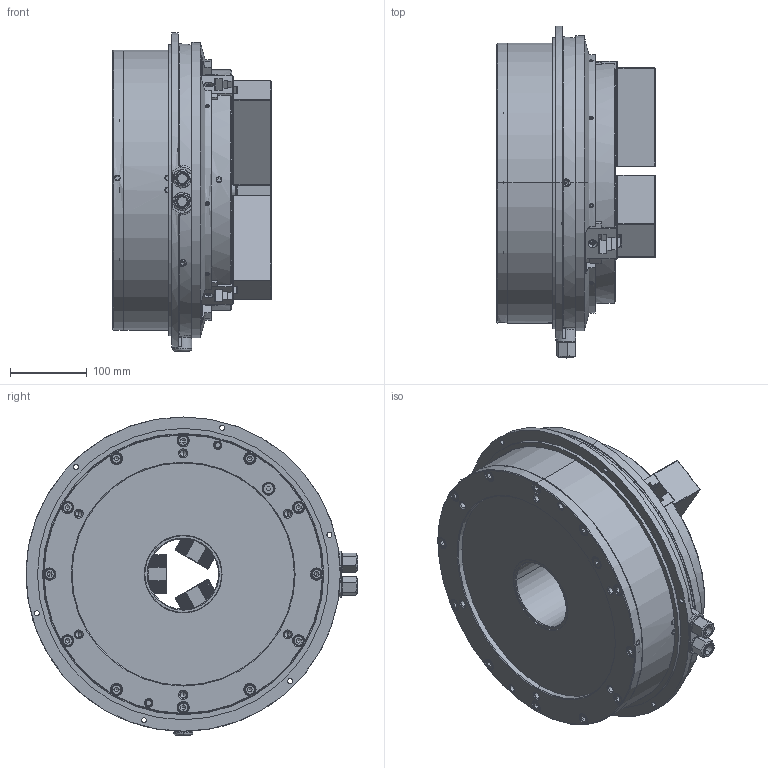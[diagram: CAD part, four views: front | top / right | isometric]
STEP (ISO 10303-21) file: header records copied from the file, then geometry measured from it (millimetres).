
FILE_DESCRIPTION (( 'STEP AP214' ), '1' );
FILE_NAME ('DEV-UVE315K-HUL.STEP', '2024-10-03T01:55:13', ( '' ), ( '' ), 'SwSTEP 2.0', 'SolidWorks 2022', '' );
FILE_SCHEMA (( 'AUTOMOTIVE_DESIGN' ));
Length unit declared in the file: millimetre
Products named in the file (6): Copy of 61P401342^DEV-UVE315K-クミタテ; Copy of 0693000003^DEV-UVE315K-クミタテ; Copy of 61P301186^DEV-UVE315K-クミタテ; DEV-UVE315K-HUL; Copy of 0030114035^DEV-UVE315K-クミタテ; Part1^DEV-UVE315K-クミタテ
Assembly tree (18 placements, depth 2):
  DEV-UVE315K-HUL
    Copy of 61P301186^DEV-UVE315K-クミタテ  x3
    Copy of 61P401342^DEV-UVE315K-クミタテ  x6
    Copy of 0030114035^DEV-UVE315K-クミタテ  x6
    Copy of 0693000003^DEV-UVE315K-クミタテ  x2
    Part1^DEV-UVE315K-クミタテ
Bounding box: 206.45 x 433 x 415 mm (x, y, z)
Volume: 15147012.7 mm3; surface area: 804751.8 mm2
Topology: 18 solids, 54 shells, 7092 faces, 19962 edges, 13053 vertices
Faces by surface type: plane 4058, cylinder 2088, cone 624, bspline 243, torus 59, sphere 20
Entity records: 177008 total; most frequent: CARTESIAN_POINT 52069, ORIENTED_EDGE 28602, DIRECTION 22490, EDGE_CURVE 14301, VERTEX_POINT 9398, LINE 9378, VECTOR 9378, AXIS2_PLACEMENT_3D 6556
